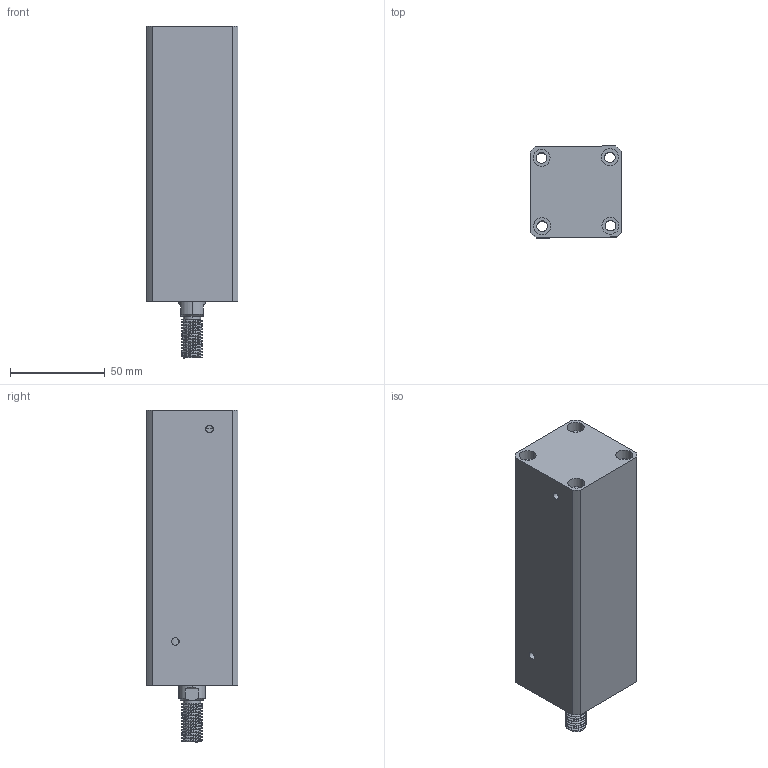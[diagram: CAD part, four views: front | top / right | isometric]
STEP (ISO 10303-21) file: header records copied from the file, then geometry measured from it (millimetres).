
FILE_DESCRIPTION (( 'STEP AP214' ), '1' );
FILE_NAME ('chtb-sdma25x100w_asm.STEP', '2018-05-22T07:52:01', ( 'Windows' ), ( 'Microsoft' ), 'SwSTEP 2.0', 'SolidWorks 2015', '' );
FILE_SCHEMA (( 'AUTOMOTIVE_DESIGN' ));
Length unit declared in the file: millimetre
Products named in the file (4): CHTB-SDMA25X100WHSG; CHTB-SDMA25X100NBT; CHTB-25QG; chtb-sdma25x100w_asm
Assembly tree (3 placements, depth 2):
  chtb-sdma25x100w_asm
    CHTB-25QG
    CHTB-SDMA25X100NBT
    CHTB-SDMA25X100WHSG
Bounding box: 48.36 x 48.36 x 175 mm (x, y, z)
Volume: 282998.6 mm3; surface area: 69037 mm2
Topology: 3 solids, 3 shells, 177 faces, 479 edges, 325 vertices
Faces by surface type: cylinder 117, plane 38, bspline 12, cone 10
Entity records: 10676 total; most frequent: CARTESIAN_POINT 6329, ORIENTED_EDGE 950, DIRECTION 772, EDGE_CURVE 475, VERTEX_POINT 325, AXIS2_PLACEMENT_3D 312, EDGE_LOOP 216, FACE_OUTER_BOUND 177
